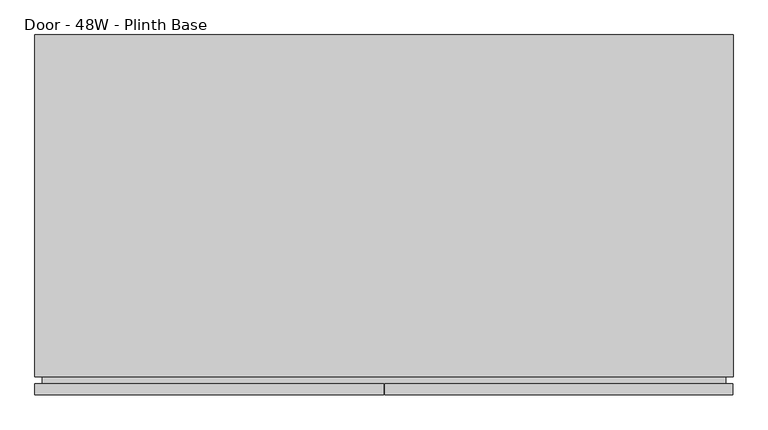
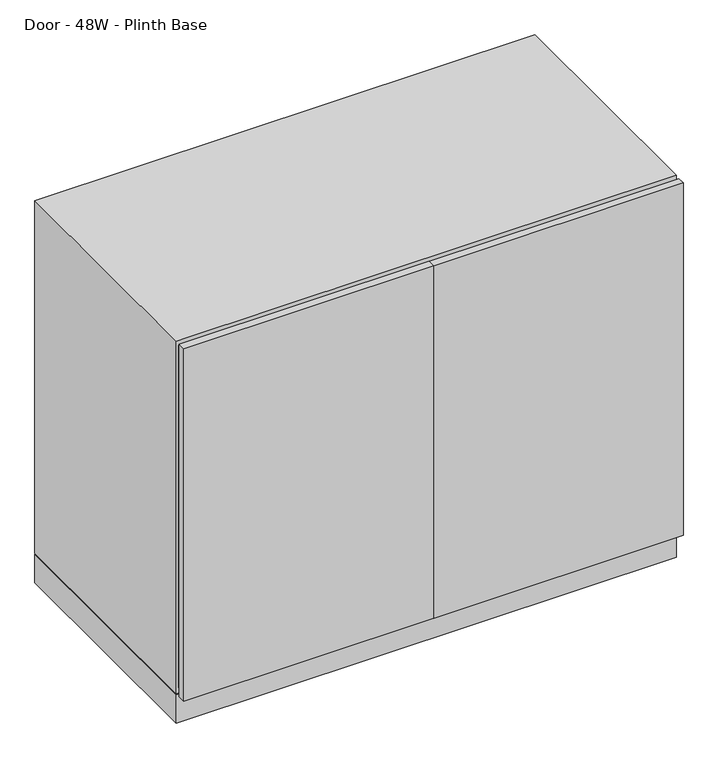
"""IFC4 building model written with IfcOpenShell, lengths in millimetres: furniture geometry, Steelcase Coalesse - Exponents - Storage - Credenza - 39H : Door - 48W - Plinth Base."""

from ifc_helpers import new_model, si_unit, point, frame, frame_2d, origin, origin_with_axes, place, context, project, spatial, polyline, circle_curve, trimmed, segment, composite_curve, outline, extrude, faceted_brep, source, transform, mapped, element, save


def door_48w_plinth_base_2e7a5084(model_context):
    return source(origin(), model_context, "Body", "SolidModel", [
        faceted_brep([(6.35, 31.75, 977.9), (6.35, 31.75, 95.25), (6.35, 622.3, 95.25), (6.35, 622.3, 977.9), (1212.85, 622.3, 95.25), (1212.85, 622.3, 977.9), (1212.85, 31.75, 95.25), (1212.85, 31.75, 977.9), (0.0, 31.75, 82.55), (1219.2, 31.75, 82.55), (1219.2, 31.75, 990.6), (0.0, 31.75, 990.6), (1219.2, 628.65, 82.55), (1219.2, 628.65, 990.6), (0.0, 628.65, 82.55), (0.0, 628.65, 990.6)], [[[0, 1, 2, 3]], [[3, 2, 4, 5]], [[5, 4, 6, 7]], [[8, 9, 10, 11], [7, 6, 1, 0]], [[10, 9, 12, 13]], [[13, 12, 14, 15]], [[15, 14, 8, 11]], [[7, 0, 3, 5]], [[10, 13, 15, 11]], [[1, 6, 4, 2]], [[12, 9, 8, 14]]]),
        extrude(outline(polyline([(977.9, 1206.5), (977.9, 12.7), (95.25, 12.7), (95.25, 1206.5), (977.9, 1206.5)]), holes=[polyline([(971.55, 1200.15), (101.6, 1200.15), (101.6, 19.05), (971.55, 19.05), (971.55, 1200.15)])]), frame((0.0, 19.05, 0.0), z_axis=(0.0, 1.0, 0.0), x_axis=(0.0, 0.0, 1.0)), (0.0, 0.0, 1.0), 31.75),
        extrude(outline(composite_curve([segment(trimmed(circle_curve(frame_2d((19.05, 593.5667033)), 6.35), [point((12.7, 593.5667033))], [point((25.4, 593.5667033))], False, "CARTESIAN"), True, "CONTINUOUS"), segment(trimmed(circle_curve(frame_2d((19.05, 593.5667033)), 6.35), [point((25.4, 593.5667033))], [point((12.7, 593.5667033))], False, "CARTESIAN"), True, "CONTINUOUS")], self_intersect=False)), origin_with_axes(), (0.0, 0.0, 1.0), 6.35),
        extrude(outline(composite_curve([segment(trimmed(circle_curve(frame_2d((19.05, 66.7867854)), 6.35), [point((12.7, 66.7867854))], [point((25.4, 66.7867854))], False, "CARTESIAN"), True, "CONTINUOUS"), segment(trimmed(circle_curve(frame_2d((19.05, 66.7867854)), 6.35), [point((25.4, 66.7867854))], [point((12.7, 66.7867854))], False, "CARTESIAN"), True, "CONTINUOUS")], self_intersect=False)), origin_with_axes(), (0.0, 0.0, 1.0), 6.35),
        extrude(outline(composite_curve([segment(trimmed(circle_curve(frame_2d((1200.15, 593.5667033)), 6.35), [point((1193.8, 593.5667033))], [point((1206.5, 593.5667033))], False, "CARTESIAN"), True, "CONTINUOUS"), segment(trimmed(circle_curve(frame_2d((1200.15, 593.5667033)), 6.35), [point((1206.5, 593.5667033))], [point((1193.8, 593.5667033))], False, "CARTESIAN"), True, "CONTINUOUS")], self_intersect=False)), origin_with_axes(), (0.0, 0.0, 1.0), 6.35),
        extrude(outline(composite_curve([segment(trimmed(circle_curve(frame_2d((1200.15, 66.7867854)), 6.35), [point((1193.8, 66.7867854))], [point((1206.5, 66.7867854))], False, "CARTESIAN"), True, "CONTINUOUS"), segment(trimmed(circle_curve(frame_2d((1200.15, 66.7867854)), 6.35), [point((1206.5, 66.7867854))], [point((1193.8, 66.7867854))], False, "CARTESIAN"), True, "CONTINUOUS")], self_intersect=False)), origin_with_axes(), (0.0, 0.0, 1.0), 6.35),
        extrude(outline(polyline([(1218.4126, 19.05), (1218.4126, 0.0), (610.5652, 0.0), (610.5652, 19.05), (1218.4126, 19.05)])), frame((0.0, 0.0, 82.55), z_axis=(0.0, 0.0, 1.0), x_axis=(1.0, 0.0, 0.0)), (0.0, 0.0, 1.0), 908.05),
        extrude(outline(polyline([(608.965, 19.05), (608.965, 0.0), (0.0, 0.0), (0.0, 19.05), (608.965, 19.05)])), frame((0.0, 0.0, 82.55), z_axis=(0.0, 0.0, 1.0), x_axis=(1.0, 0.0, 0.0)), (0.0, 0.0, 1.0), 908.05),
        extrude(outline(polyline([(0.0, -19.05), (0.0, 0.0), (31.75, 0.0), (31.75, -19.05), (0.0, -19.05)])), frame((590.55, 19.05, 101.6), z_axis=(3.3644198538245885e-12, 0.0, 1.0), x_axis=(0.0, 1.0, 0.0)), (0.0, 0.0, 1.0), 869.95),
        extrude(outline(polyline([(1219.2, 628.65), (1219.2, 31.75), (0.0, 31.75), (0.0, 628.65), (1219.2, 628.65)]), holes=[polyline([(1200.15, 622.3), (19.05, 622.3), (19.05, 38.1), (1200.15, 38.1), (1200.15, 622.3)])]), frame((0.0, 0.0, 6.35), z_axis=(0.0, 0.0, 1.0), x_axis=(1.0, 0.0, 0.0)), (0.0, 0.0, 1.0), 73.4568),
        extrude(outline(polyline([(590.55, 609.6), (609.6, 609.6), (609.6, 50.8), (590.55, 50.8), (590.55, 609.6)])), frame((0.0, 0.0, 95.25), z_axis=(0.0, 0.0, 1.0), x_axis=(1.0, 0.0, 0.0)), (0.0, 0.0, 1.0), 882.65),
    ])


if __name__ == "__main__":
    model = new_model("IFC4")
    model_context = context("Model", 3, world=origin())
    ifc_project = project(units=[si_unit("LENGTHUNIT", "METRE", prefix="MILLI")], contexts=[model_context])
    site = spatial("IfcSite", under=ifc_project)
    building = spatial("IfcBuilding", under=site)
    placement = place(None, origin())
    door_48w_plinth_base_shape = door_48w_plinth_base_2e7a5084(model_context)
    element("IfcFurniture", 1, ObjectType="Steelcase Coalesse - Exponents - Storage - Credenza - 39H : Door - 48W - Plinth Base", at=placement, inside=building, context=model_context, shape_type="MappedRepresentation", body=[
        mapped(door_48w_plinth_base_shape, transform((0.0, 0.0, 0.0), x_axis=(1.0, 0.0, 0.0), y_axis=(0.0, 1.0, 0.0), z_axis=(0.0, 0.0, 1.0))),
    ])
    save(model, "model.ifc")
